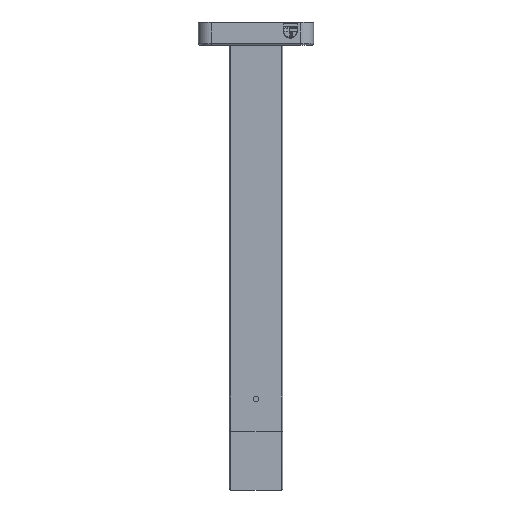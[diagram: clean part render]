
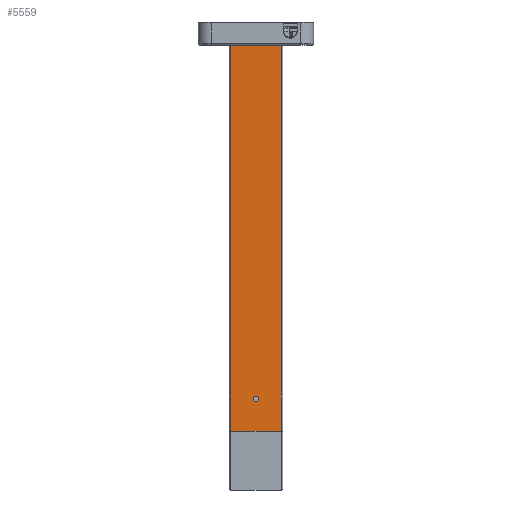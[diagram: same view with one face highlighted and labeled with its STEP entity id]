
A CAD part, front view. The second image highlights one B-rep face of the part: STEP entity #5559.
In plain terms, the highlighted planar face has unit normal (0, -1, 0).
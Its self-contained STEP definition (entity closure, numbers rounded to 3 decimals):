
#135 = DIRECTION ( 'NONE',  ( 0., 0., 1. ) ) ;
#538 = EDGE_CURVE ( 'NONE', #29853, #35558, #16658, .T. ) ;
#1462 = EDGE_CURVE ( 'NONE', #9675, #27019, #14285, .T. ) ;
#1828 = VERTEX_POINT ( 'NONE', #37044 ) ;
#1889 = EDGE_CURVE ( 'NONE', #1828, #9675, #13491, .T. ) ;
#2011 = VERTEX_POINT ( 'NONE', #11553 ) ;
#2247 = ORIENTED_EDGE ( 'NONE', *, *, #21528, .T. ) ;
#3655 = ORIENTED_EDGE ( 'NONE', *, *, #31204, .F. ) ;
#4038 = ORIENTED_EDGE ( 'NONE', *, *, #28608, .F. ) ;
#4364 = CARTESIAN_POINT ( 'NONE',  ( 376.2, -15., -23.5 ) ) ;
#4621 = VECTOR ( 'NONE', #17536, 1000. ) ;
#4645 = CARTESIAN_POINT ( 'NONE',  ( 0., -15., 17.75 ) ) ;
#4816 = CARTESIAN_POINT ( 'NONE',  ( 376.2, -15., -23.5 ) ) ;
#5129 = ORIENTED_EDGE ( 'NONE', *, *, #1889, .T. ) ;
#5284 = DIRECTION ( 'NONE',  ( 0., 0., -1. ) ) ;
#5559 = ADVANCED_FACE ( 'NONE', ( #17605, #32357 ), #14740, .F. ) ;
#7138 = CARTESIAN_POINT ( 'NONE',  ( 346.2, -15., 0. ) ) ;
#7488 = EDGE_CURVE ( 'NONE', #2011, #9724, #27924, .T. ) ;
#7714 = DIRECTION ( 'NONE',  ( 0., 1., 0. ) ) ;
#8919 = ORIENTED_EDGE ( 'NONE', *, *, #30713, .T. ) ;
#9082 = ORIENTED_EDGE ( 'NONE', *, *, #29092, .F. ) ;
#9612 = EDGE_LOOP ( 'NONE', ( #15889, #2247, #8919, #29740, #9082, #5129, #14221, #10573 ) ) ;
#9675 = VERTEX_POINT ( 'NONE', #19937 ) ;
#9724 = VERTEX_POINT ( 'NONE', #4816 ) ;
#9856 = DIRECTION ( 'NONE',  ( 1., 0., 0. ) ) ;
#10398 = DIRECTION ( 'NONE',  ( -1., 0., 0. ) ) ;
#10567 = DIRECTION ( 'NONE',  ( 0., -1., 0. ) ) ;
#10573 = ORIENTED_EDGE ( 'NONE', *, *, #32427, .T. ) ;
#11544 = DIRECTION ( 'NONE',  ( 0., 0., 1. ) ) ;
#11553 = CARTESIAN_POINT ( 'NONE',  ( 0., -15., -23.5 ) ) ;
#11971 = CARTESIAN_POINT ( 'NONE',  ( 0., -15., 4.25 ) ) ;
#12203 = VECTOR ( 'NONE', #30923, 1000. ) ;
#12606 = CARTESIAN_POINT ( 'NONE',  ( 8., -15., 17.75 ) ) ;
#13048 = VECTOR ( 'NONE', #10398, 1000. ) ;
#13491 = LINE ( 'NONE', #25552, #13048 ) ;
#13561 = CARTESIAN_POINT ( 'NONE',  ( 346.2, -15., -2.5 ) ) ;
#13852 = VERTEX_POINT ( 'NONE', #34504 ) ;
#13891 = LINE ( 'NONE', #19247, #12203 ) ;
#14221 = ORIENTED_EDGE ( 'NONE', *, *, #1462, .T. ) ;
#14285 = LINE ( 'NONE', #31521, #24646 ) ;
#14479 = LINE ( 'NONE', #11971, #4621 ) ;
#14740 = PLANE ( 'NONE',  #35571 ) ;
#15878 = CIRCLE ( 'NONE', #37275, 2.5 ) ;
#15889 = ORIENTED_EDGE ( 'NONE', *, *, #538, .T. ) ;
#16006 = CARTESIAN_POINT ( 'NONE',  ( 8., -15., 17.75 ) ) ;
#16658 = CIRCLE ( 'NONE', #22789, 6.75 ) ;
#17536 = DIRECTION ( 'NONE',  ( -1., 0., 0. ) ) ;
#17605 = FACE_BOUND ( 'NONE', #23885, .T. ) ;
#18881 = LINE ( 'NONE', #16006, #25138 ) ;
#19247 = CARTESIAN_POINT ( 'NONE',  ( 0., -15., 25. ) ) ;
#19937 = CARTESIAN_POINT ( 'NONE',  ( 0., -15., 23.5 ) ) ;
#20427 = DIRECTION ( 'NONE',  ( 0., -1., 0. ) ) ;
#20525 = CARTESIAN_POINT ( 'NONE',  ( 376.2, -15., 25. ) ) ;
#20900 = LINE ( 'NONE', #20525, #21417 ) ;
#21196 = CARTESIAN_POINT ( 'NONE',  ( 0., -15., 4.25 ) ) ;
#21417 = VECTOR ( 'NONE', #32212, 1000. ) ;
#21528 = EDGE_CURVE ( 'NONE', #35558, #33516, #14479, .T. ) ;
#21617 = CARTESIAN_POINT ( 'NONE',  ( 8., -15., 4.25 ) ) ;
#22789 = AXIS2_PLACEMENT_3D ( 'NONE', #33980, #7714, #11544 ) ;
#23885 = EDGE_LOOP ( 'NONE', ( #4038, #3655 ) ) ;
#24646 = VECTOR ( 'NONE', #5284, 1000. ) ;
#25056 = DIRECTION ( 'NONE',  ( 1., 0., 0. ) ) ;
#25138 = VECTOR ( 'NONE', #9856, 1000. ) ;
#25552 = CARTESIAN_POINT ( 'NONE',  ( 376.2, -15., 23.5 ) ) ;
#25972 = CARTESIAN_POINT ( 'NONE',  ( 346.2, -15., 0. ) ) ;
#26151 = VERTEX_POINT ( 'NONE', #13561 ) ;
#26408 = CARTESIAN_POINT ( 'NONE',  ( 376.2, -15., 25. ) ) ;
#26836 = CIRCLE ( 'NONE', #28089, 2.5 ) ;
#27019 = VERTEX_POINT ( 'NONE', #4645 ) ;
#27808 = VECTOR ( 'NONE', #25056, 1000. ) ;
#27924 = LINE ( 'NONE', #4364, #27808 ) ;
#28089 = AXIS2_PLACEMENT_3D ( 'NONE', #25972, #20427, #29240 ) ;
#28608 = EDGE_CURVE ( 'NONE', #26151, #13852, #26836, .T. ) ;
#29092 = EDGE_CURVE ( 'NONE', #1828, #9724, #20900, .T. ) ;
#29240 = DIRECTION ( 'NONE',  ( 0., 0., -1. ) ) ;
#29740 = ORIENTED_EDGE ( 'NONE', *, *, #7488, .T. ) ;
#29853 = VERTEX_POINT ( 'NONE', #12606 ) ;
#30694 = DIRECTION ( 'NONE',  ( 0., 0., -1. ) ) ;
#30713 = EDGE_CURVE ( 'NONE', #33516, #2011, #13891, .T. ) ;
#30923 = DIRECTION ( 'NONE',  ( 0., 0., -1. ) ) ;
#31204 = EDGE_CURVE ( 'NONE', #13852, #26151, #15878, .T. ) ;
#31521 = CARTESIAN_POINT ( 'NONE',  ( 0., -15., 25. ) ) ;
#32212 = DIRECTION ( 'NONE',  ( 0., 0., -1. ) ) ;
#32357 = FACE_OUTER_BOUND ( 'NONE', #9612, .T. ) ;
#32427 = EDGE_CURVE ( 'NONE', #27019, #29853, #18881, .T. ) ;
#33516 = VERTEX_POINT ( 'NONE', #21196 ) ;
#33980 = CARTESIAN_POINT ( 'NONE',  ( 8., -15., 11. ) ) ;
#34504 = CARTESIAN_POINT ( 'NONE',  ( 346.2, -15., 2.5 ) ) ;
#35558 = VERTEX_POINT ( 'NONE', #21617 ) ;
#35571 = AXIS2_PLACEMENT_3D ( 'NONE', #26408, #37710, #135 ) ;
#37044 = CARTESIAN_POINT ( 'NONE',  ( 376.2, -15., 23.5 ) ) ;
#37275 = AXIS2_PLACEMENT_3D ( 'NONE', #7138, #10567, #30694 ) ;
#37710 = DIRECTION ( 'NONE',  ( 0., 1., 0. ) ) ;
